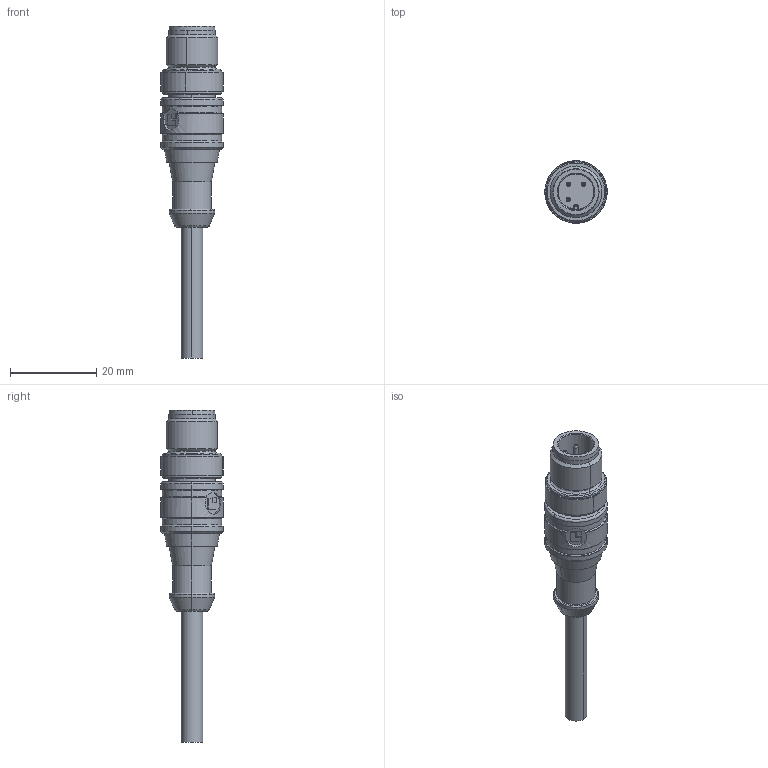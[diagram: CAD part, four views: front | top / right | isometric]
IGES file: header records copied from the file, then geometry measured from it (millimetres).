
Start section: Elysium IGES Interface
Global section: file name: C:\Data\JobServerData\JobServer Files\e5f3df90-5229-4395-8731-084caf813943\work\output\model.igs; native system: PTC Creo Elements/Direct Modeling 19.0B  21-Mar-2015; preprocessor: Creo Element/Direct IGES_3D V2.2; author: Unknown; organization: Unknown; date: 20180411.100107; units: millimetre
Bounding box: 14.5 x 14.5 x 77 mm (x, y, z)
Volume: 5479.3 mm3; surface area: 2986.9 mm2
Topology: 1 solids, 1 shells, 151 faces, 355 edges, 226 vertices
Faces by surface type: bspline 151
